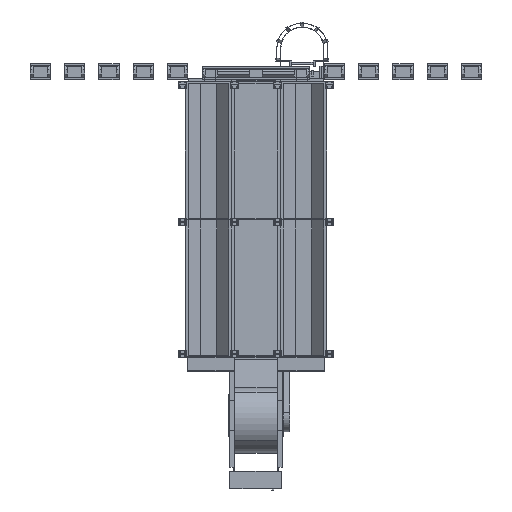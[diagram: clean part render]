
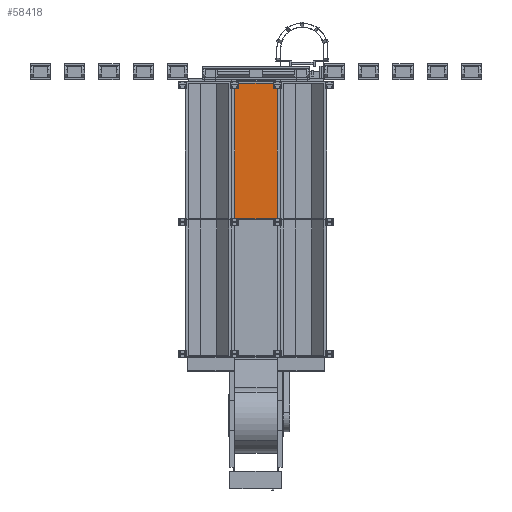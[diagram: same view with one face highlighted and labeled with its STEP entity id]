
A CAD part, front view. The second image highlights one B-rep face of the part: STEP entity #58418.
In plain terms, the highlighted planar face has unit normal (0, -1, 0) as drawn and (0, 0, -1) by its records, which use the part's own axes.
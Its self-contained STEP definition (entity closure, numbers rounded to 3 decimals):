
#3194=FACE_OUTER_BOUND('',#6192,.T.);
#6192=EDGE_LOOP('',(#39103,#39104,#39105,#39106));
#9896=LINE('',#82967,#17125);
#9899=LINE('',#82973,#17128);
#9965=LINE('',#83111,#17194);
#9966=LINE('',#83112,#17195);
#17125=VECTOR('',#66724,0.394);
#17128=VECTOR('',#66729,0.394);
#17194=VECTOR('',#66819,0.394);
#17195=VECTOR('',#66820,0.394);
#24267=VERTEX_POINT('',#82960);
#24270=VERTEX_POINT('',#82965);
#24271=VERTEX_POINT('',#82969);
#24332=VERTEX_POINT('',#83110);
#30061=EDGE_CURVE('',#24270,#24267,#9896,.T.);
#30064=EDGE_CURVE('',#24267,#24271,#9899,.T.);
#30130=EDGE_CURVE('',#24332,#24271,#9965,.T.);
#30131=EDGE_CURVE('',#24332,#24270,#9966,.T.);
#39103=ORIENTED_EDGE('',*,*,#30130,.T.);
#39104=ORIENTED_EDGE('',*,*,#30064,.F.);
#39105=ORIENTED_EDGE('',*,*,#30061,.F.);
#39106=ORIENTED_EDGE('',*,*,#30131,.F.);
#56055=PLANE('',#61901);
#58418=ADVANCED_FACE('',(#3194),#56055,.F.);
#61901=AXIS2_PLACEMENT_3D('',#83109,#66817,#66818);
#66724=DIRECTION('',(0.,-1.,0.));
#66729=DIRECTION('',(1.,0.,0.));
#66817=DIRECTION('center_axis',(0.,0.,1.));
#66818=DIRECTION('ref_axis',(1.,0.,0.));
#66819=DIRECTION('',(0.,-1.,0.));
#66820=DIRECTION('',(-1.,0.,0.));
#82960=CARTESIAN_POINT('',(-288.,-47.25,0.));
#82965=CARTESIAN_POINT('',(-288.,47.25,0.));
#82967=CARTESIAN_POINT('',(-288.,47.25,0.));
#82969=CARTESIAN_POINT('',(-192.004,-47.25,0.));
#82973=CARTESIAN_POINT('',(-288.,-47.25,0.));
#83109=CARTESIAN_POINT('Origin',(-144.,0.,0.));
#83110=CARTESIAN_POINT('',(-192.004,47.25,0.));
#83111=CARTESIAN_POINT('',(-192.004,2.638,0.));
#83112=CARTESIAN_POINT('',(0.,47.25,0.));
